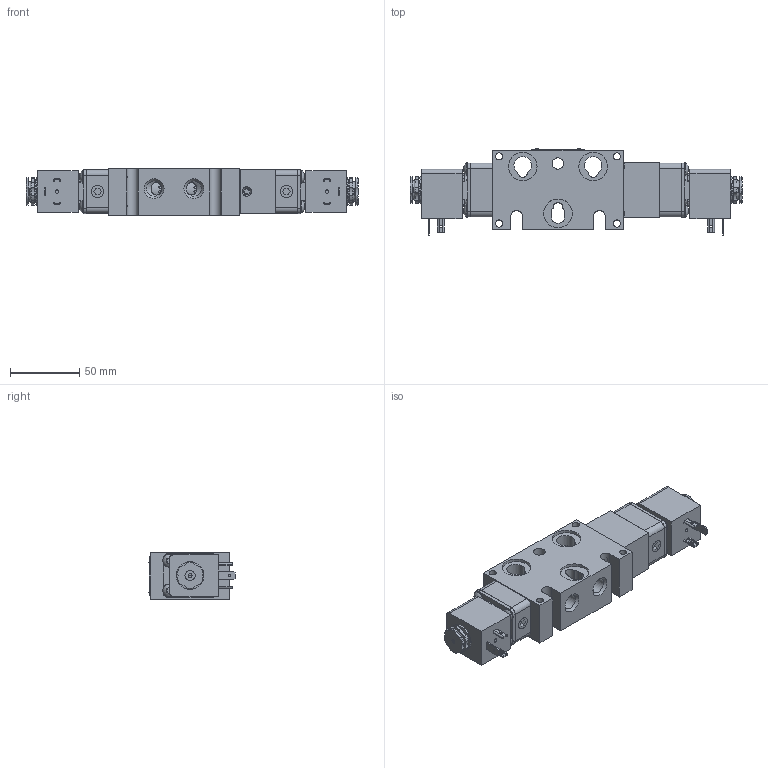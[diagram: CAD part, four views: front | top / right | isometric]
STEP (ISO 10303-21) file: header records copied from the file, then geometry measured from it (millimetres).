
FILE_DESCRIPTION(/* description */ (''),/* implementation_level */ '2;1');
FILE_NAME(/* name */ 'D:\Engineering\Product\valves\Assembly\standard\ESS\stp\EBSS2HCQ.stp',/* time_stamp */ '2022-06-20T07:48:51-04:00',/* author */ ('RMcKenna'),/* organization */ (''),/* preprocessor_version */ 'ST-DEVELOPER v18.1',/* originating_system */ 'Autodesk Inventor 2021',/* authorisation */ '');
FILE_SCHEMA (('AUTOMOTIVE_DESIGN { 1 0 10303 214 3 1 1 }'));
Products named in the file (1): Part10
Bounding box: 239.56 x 62.74 x 33.32 mm (x, y, z)
Volume: 260589.1 mm3; surface area: 96627.6 mm2
Topology: 1 solids, 24 shells, 1971 faces, 4903 edges, 3139 vertices
Faces by surface type: plane 849, cylinder 659, cone 254, torus 141, bspline 58, sphere 10
Full cylindrical faces by diameter (mm): 1.168 x20, 1.3 x2, 1.397 x2, 1.5 x2, 1.651 x4, 2.032 x16, 2.07 x2, 2.261 x2, 2.35 x8, 2.5 x2, 2.778 x2, 2.8 x2, 2.819 x2, 3 x8, 3.048 x3, 3.175 x1, 3.4 x2, 3.683 x10, 4.191 x4, 4.826 x8, 4.953 x2, 4.978 x2, 5.15 x8, 5.156 x16, 5.159 x4, 5.5 x2, 6.553 x2, 7.29 x2, 8 x4, 8.052 x2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
Entity records: 66298 total; most frequent: CARTESIAN_POINT 16518, DIRECTION 10166, ORIENTED_EDGE 9774, EDGE_CURVE 4887, AXIS2_PLACEMENT_3D 3901, VERTEX_POINT 3139, LINE 2364, VECTOR 2364
